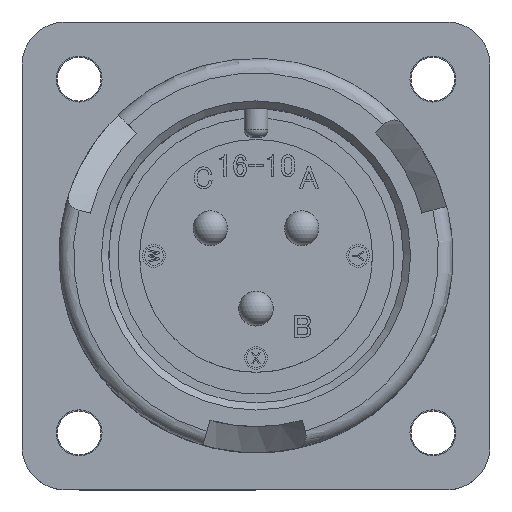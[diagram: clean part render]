
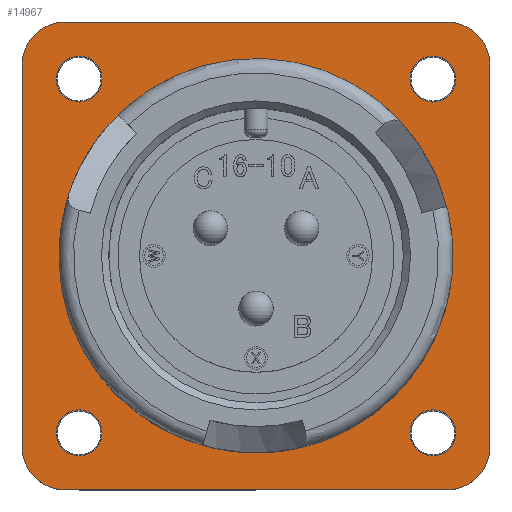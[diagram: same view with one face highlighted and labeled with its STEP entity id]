
A CAD part, top view. The second image highlights one B-rep face of the part: STEP entity #14967.
In plain terms, the highlighted planar face has unit normal (0, 0, 1).
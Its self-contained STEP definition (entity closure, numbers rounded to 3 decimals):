
#194 = LINE ( 'NONE', #12366, #17113 ) ;
#323 = DIRECTION ( 'NONE',  ( 0., 1., 0. ) ) ;
#1094 = DIRECTION ( 'NONE',  ( 0., 0., -1. ) ) ;
#2048 = DIRECTION ( 'NONE',  ( -1., 0., 0. ) ) ;
#2297 = ORIENTED_EDGE ( 'NONE', *, *, #14428, .T. ) ;
#2684 = LINE ( 'NONE', #14783, #6801 ) ;
#2915 = EDGE_CURVE ( 'NONE', #5511, #5511, #16294, .T. ) ;
#2975 = EDGE_LOOP ( 'NONE', ( #16932 ) ) ;
#3036 = CARTESIAN_POINT ( 'NONE',  ( -13.7, 0., -19.2 ) ) ;
#3178 = CARTESIAN_POINT ( 'NONE',  ( -13.905, -12.305, -19.2 ) ) ;
#3274 = ORIENTED_EDGE ( 'NONE', *, *, #5062, .T. ) ;
#3284 = DIRECTION ( 'NONE',  ( 0., 0., -1. ) ) ;
#3549 = AXIS2_PLACEMENT_3D ( 'NONE', #18058, #13168, #21043 ) ;
#3599 = VERTEX_POINT ( 'NONE', #14647 ) ;
#3783 = EDGE_LOOP ( 'NONE', ( #8731 ) ) ;
#4160 = CARTESIAN_POINT ( 'NONE',  ( 13.27, -16.27, -19.2 ) ) ;
#4244 = EDGE_CURVE ( 'NONE', #3599, #9855, #6797, .T. ) ;
#4408 = CARTESIAN_POINT ( 'NONE',  ( -13.905, 12.305, -19.2 ) ) ;
#4446 = CARTESIAN_POINT ( 'NONE',  ( 12.305, -12.305, -19.2 ) ) ;
#4759 = CARTESIAN_POINT ( 'NONE',  ( -16.27, -13.27, -19.2 ) ) ;
#4799 = VERTEX_POINT ( 'NONE', #14492 ) ;
#5062 = EDGE_CURVE ( 'NONE', #8321, #9965, #2684, .T. ) ;
#5466 = EDGE_CURVE ( 'NONE', #20667, #10784, #11639, .T. ) ;
#5511 = VERTEX_POINT ( 'NONE', #7666 ) ;
#5721 = DIRECTION ( 'NONE',  ( 0., -1., 0. ) ) ;
#5766 = VECTOR ( 'NONE', #14064, 1000. ) ;
#5834 = AXIS2_PLACEMENT_3D ( 'NONE', #17662, #15956, #11161 ) ;
#5995 = FACE_BOUND ( 'NONE', #2975, .T. ) ;
#6774 = DIRECTION ( 'NONE',  ( 0., 0., 1. ) ) ;
#6797 = LINE ( 'NONE', #9078, #5766 ) ;
#6801 = VECTOR ( 'NONE', #14845, 1000. ) ;
#6911 = CARTESIAN_POINT ( 'NONE',  ( 16.27, 13.27, -19.2 ) ) ;
#6939 = CIRCLE ( 'NONE', #11932, 1.6 ) ;
#7026 = EDGE_LOOP ( 'NONE', ( #2297 ) ) ;
#7043 = ORIENTED_EDGE ( 'NONE', *, *, #19851, .T. ) ;
#7200 = AXIS2_PLACEMENT_3D ( 'NONE', #4446, #12752, #15808 ) ;
#7381 = CARTESIAN_POINT ( 'NONE',  ( 13.27, 16.27, -19.2 ) ) ;
#7447 = AXIS2_PLACEMENT_3D ( 'NONE', #19752, #3284, #14818 ) ;
#7603 = DIRECTION ( 'NONE',  ( -1., 0., 0. ) ) ;
#7666 = CARTESIAN_POINT ( 'NONE',  ( 10.705, -12.305, -19.2 ) ) ;
#7681 = CARTESIAN_POINT ( 'NONE',  ( 13.27, 13.27, -19.2 ) ) ;
#7733 = DIRECTION ( 'NONE',  ( -1., 0., 0. ) ) ;
#7791 = CARTESIAN_POINT ( 'NONE',  ( -16.27, 13.27, -19.2 ) ) ;
#7796 = VERTEX_POINT ( 'NONE', #4759 ) ;
#8240 = EDGE_CURVE ( 'NONE', #9855, #20667, #20270, .T. ) ;
#8321 = VERTEX_POINT ( 'NONE', #7381 ) ;
#8731 = ORIENTED_EDGE ( 'NONE', *, *, #9784, .T. ) ;
#8811 = ORIENTED_EDGE ( 'NONE', *, *, #4244, .T. ) ;
#9041 = FACE_BOUND ( 'NONE', #7026, .T. ) ;
#9078 = CARTESIAN_POINT ( 'NONE',  ( -13.27, -16.27, -19.2 ) ) ;
#9081 = EDGE_CURVE ( 'NONE', #10659, #10659, #19991, .T. ) ;
#9224 = EDGE_CURVE ( 'NONE', #9965, #19486, #15119, .T. ) ;
#9605 = AXIS2_PLACEMENT_3D ( 'NONE', #16565, #16307, #19666 ) ;
#9772 = VERTEX_POINT ( 'NONE', #4408 ) ;
#9784 = EDGE_CURVE ( 'NONE', #4799, #4799, #6939, .T. ) ;
#9855 = VERTEX_POINT ( 'NONE', #4160 ) ;
#9960 = CARTESIAN_POINT ( 'NONE',  ( 0., 0., -19.2 ) ) ;
#9965 = VERTEX_POINT ( 'NONE', #10556 ) ;
#10066 = FACE_OUTER_BOUND ( 'NONE', #17817, .T. ) ;
#10205 = DIRECTION ( 'NONE',  ( 0., 0., 1. ) ) ;
#10466 = ORIENTED_EDGE ( 'NONE', *, *, #2915, .T. ) ;
#10556 = CARTESIAN_POINT ( 'NONE',  ( -13.27, 16.27, -19.2 ) ) ;
#10641 = ORIENTED_EDGE ( 'NONE', *, *, #14387, .T. ) ;
#10659 = VERTEX_POINT ( 'NONE', #3036 ) ;
#10760 = EDGE_LOOP ( 'NONE', ( #7043 ) ) ;
#10784 = VERTEX_POINT ( 'NONE', #6911 ) ;
#11161 = DIRECTION ( 'NONE',  ( -1., 0., 0. ) ) ;
#11465 = CIRCLE ( 'NONE', #19886, 3. ) ;
#11620 = EDGE_LOOP ( 'NONE', ( #10466 ) ) ;
#11628 = EDGE_CURVE ( 'NONE', #19486, #7796, #194, .T. ) ;
#11639 = LINE ( 'NONE', #14878, #18813 ) ;
#11741 = ORIENTED_EDGE ( 'NONE', *, *, #15136, .T. ) ;
#11932 = AXIS2_PLACEMENT_3D ( 'NONE', #17634, #1094, #7733 ) ;
#11944 = CIRCLE ( 'NONE', #5834, 1.6 ) ;
#12253 = ORIENTED_EDGE ( 'NONE', *, *, #9224, .T. ) ;
#12366 = CARTESIAN_POINT ( 'NONE',  ( -16.27, 13.27, -19.2 ) ) ;
#12385 = FACE_BOUND ( 'NONE', #10760, .T. ) ;
#12752 = DIRECTION ( 'NONE',  ( 0., 0., -1. ) ) ;
#13154 = ORIENTED_EDGE ( 'NONE', *, *, #5466, .T. ) ;
#13168 = DIRECTION ( 'NONE',  ( 0., 0., 1. ) ) ;
#13322 = AXIS2_PLACEMENT_3D ( 'NONE', #7681, #20749, #7603 ) ;
#13457 = CARTESIAN_POINT ( 'NONE',  ( 13.27, -13.27, -19.2 ) ) ;
#13670 = FACE_BOUND ( 'NONE', #11620, .T. ) ;
#13703 = CIRCLE ( 'NONE', #7447, 1.6 ) ;
#14057 = DIRECTION ( 'NONE',  ( -1., 0., 0. ) ) ;
#14064 = DIRECTION ( 'NONE',  ( 1., 0., 0. ) ) ;
#14387 = EDGE_CURVE ( 'NONE', #7796, #3599, #11465, .T. ) ;
#14428 = EDGE_CURVE ( 'NONE', #9772, #9772, #13703, .T. ) ;
#14492 = CARTESIAN_POINT ( 'NONE',  ( 10.705, 12.305, -19.2 ) ) ;
#14647 = CARTESIAN_POINT ( 'NONE',  ( -13.27, -16.27, -19.2 ) ) ;
#14751 = CARTESIAN_POINT ( 'NONE',  ( 16.27, -13.27, -19.2 ) ) ;
#14780 = DIRECTION ( 'NONE',  ( -1., 0., 0. ) ) ;
#14783 = CARTESIAN_POINT ( 'NONE',  ( -13.27, 16.27, -19.2 ) ) ;
#14818 = DIRECTION ( 'NONE',  ( -1., 0., 0. ) ) ;
#14845 = DIRECTION ( 'NONE',  ( -1., 0., 0. ) ) ;
#14878 = CARTESIAN_POINT ( 'NONE',  ( 16.27, 13.27, -19.2 ) ) ;
#14967 = ADVANCED_FACE ( 'NONE', ( #15444, #13670, #12385, #9041, #5995, #10066 ), #19604, .F. ) ;
#15119 = CIRCLE ( 'NONE', #3549, 3. ) ;
#15136 = EDGE_CURVE ( 'NONE', #10784, #8321, #15188, .T. ) ;
#15188 = CIRCLE ( 'NONE', #13322, 3. ) ;
#15444 = FACE_BOUND ( 'NONE', #3783, .T. ) ;
#15808 = DIRECTION ( 'NONE',  ( -1., 0., 0. ) ) ;
#15956 = DIRECTION ( 'NONE',  ( 0., 0., -1. ) ) ;
#16294 = CIRCLE ( 'NONE', #7200, 1.6 ) ;
#16307 = DIRECTION ( 'NONE',  ( 0., 0., -1. ) ) ;
#16337 = AXIS2_PLACEMENT_3D ( 'NONE', #9960, #6774, #14780 ) ;
#16565 = CARTESIAN_POINT ( 'NONE',  ( 13.27, 13.27, -19.2 ) ) ;
#16809 = AXIS2_PLACEMENT_3D ( 'NONE', #13457, #10205, #2048 ) ;
#16932 = ORIENTED_EDGE ( 'NONE', *, *, #9081, .F. ) ;
#16961 = ORIENTED_EDGE ( 'NONE', *, *, #8240, .T. ) ;
#17113 = VECTOR ( 'NONE', #5721, 1000. ) ;
#17634 = CARTESIAN_POINT ( 'NONE',  ( 12.305, 12.305, -19.2 ) ) ;
#17662 = CARTESIAN_POINT ( 'NONE',  ( -12.305, -12.305, -19.2 ) ) ;
#17817 = EDGE_LOOP ( 'NONE', ( #11741, #3274, #12253, #21079, #10641, #8811, #16961, #13154 ) ) ;
#18058 = CARTESIAN_POINT ( 'NONE',  ( -13.27, 13.27, -19.2 ) ) ;
#18760 = CARTESIAN_POINT ( 'NONE',  ( -13.27, -13.27, -19.2 ) ) ;
#18813 = VECTOR ( 'NONE', #323, 1000. ) ;
#19011 = VERTEX_POINT ( 'NONE', #3178 ) ;
#19486 = VERTEX_POINT ( 'NONE', #7791 ) ;
#19604 = PLANE ( 'NONE',  #9605 ) ;
#19666 = DIRECTION ( 'NONE',  ( -1., 0., 0. ) ) ;
#19752 = CARTESIAN_POINT ( 'NONE',  ( -12.305, 12.305, -19.2 ) ) ;
#19851 = EDGE_CURVE ( 'NONE', #19011, #19011, #11944, .T. ) ;
#19886 = AXIS2_PLACEMENT_3D ( 'NONE', #18760, #20650, #14057 ) ;
#19991 = CIRCLE ( 'NONE', #16337, 13.7 ) ;
#20270 = CIRCLE ( 'NONE', #16809, 3. ) ;
#20650 = DIRECTION ( 'NONE',  ( 0., 0., 1. ) ) ;
#20667 = VERTEX_POINT ( 'NONE', #14751 ) ;
#20749 = DIRECTION ( 'NONE',  ( 0., 0., 1. ) ) ;
#21043 = DIRECTION ( 'NONE',  ( 1., 0., 0. ) ) ;
#21079 = ORIENTED_EDGE ( 'NONE', *, *, #11628, .T. ) ;
